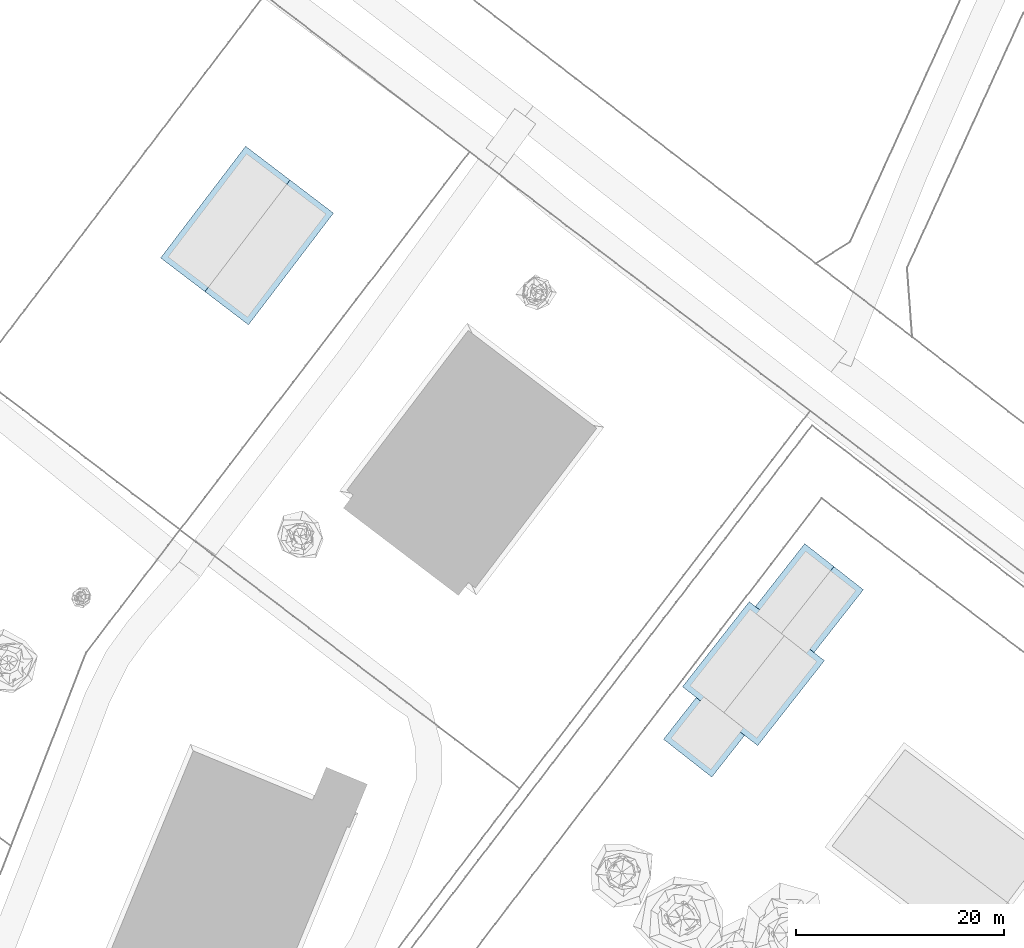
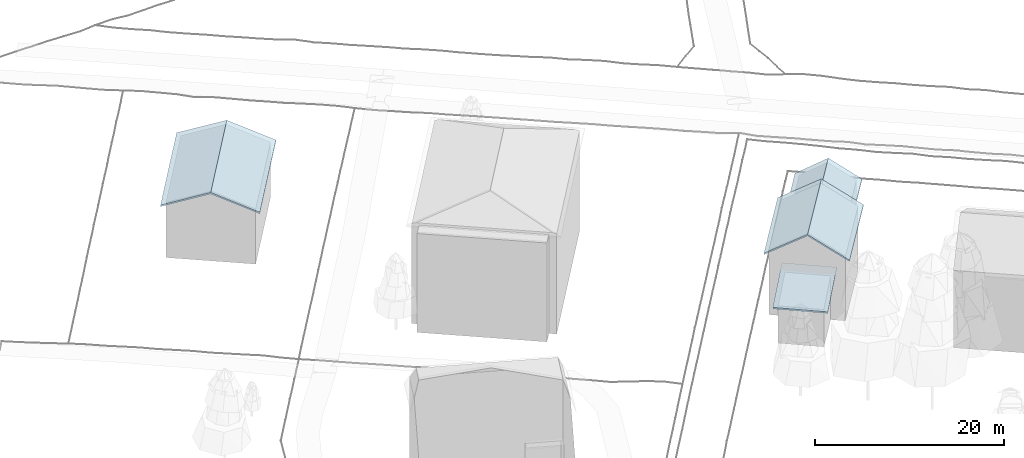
# Not in any storey, part 11 of 88: 2 roofs.
"""IFC4 building model written with IfcOpenShell, lengths in metres."""

from ifc_helpers import new_model, si_unit, origin_with_axes, place, context, subcontext, project, spatial, faceted_brep, element, save


model = new_model("IFC4")

# Units and contexts
model_context = context("Model", 3, precision=1e-05, world=origin_with_axes())
body_context = subcontext(model_context, "Body", "Model", "MODEL_VIEW")
ifc_project = project(units=[si_unit("LENGTHUNIT", "METRE"), si_unit("AREAUNIT", "SQUARE_METRE"), si_unit("VOLUMEUNIT", "CUBIC_METRE"), si_unit("PLANEANGLEUNIT", "RADIAN")], contexts=[model_context])

# Sites, building
site_1_placement = place(None, origin_with_axes())
site_1 = spatial("IfcSite", under=ifc_project, at=site_1_placement, Name="CH907857693633", CompositionType="ELEMENT")
site_2_placement = place(None, origin_with_axes())
site_2 = spatial("IfcSite", under=site_1, at=site_2_placement, Name="Buildings", CompositionType="ELEMENT")
building_1_placement = place(None, origin_with_axes())
building_1 = spatial("IfcBuilding", under=site_2, at=building_1_placement, Name="Building_76F2A9BA", CompositionType="ELEMENT")

# Roof
roof_1_placement = place(building_1_placement, origin_with_axes())
element("IfcRoof", 1, at=roof_1_placement, inside=building_1, Name="Building_76F2A9BA_Roof", PredefinedType="NOTDEFINED", context=body_context, shape_type="Brep", body=[
    faceted_brep([(67.4620000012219, 189.350999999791, 14.8850877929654), (72.6359999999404, 189.646999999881, 13.3071877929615), (70.5480000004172, 191.236999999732, 14.3591877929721), (79.8040000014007, 196.899000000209, 12.7832877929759), (74.6279999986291, 196.600999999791, 14.3590877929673), (76.7179999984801, 195.01099999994, 13.3071877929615), (71.5439999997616, 194.714999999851, 14.8850877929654), (69.4120000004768, 196.337000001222, 13.8331877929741), (68.4360000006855, 192.84299999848, 14.3591877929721), (68.4360000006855, 192.84299999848, 14.3591877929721), (66.3060000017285, 194.464999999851, 13.3071877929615), (63.1999999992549, 192.59299999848, 12.7832877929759), (66.3060000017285, 194.464999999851, 13.3071877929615), (68.4360000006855, 192.84299999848, 14.3591877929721), (69.4120000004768, 196.337000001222, 13.8331877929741), (75.6259999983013, 200.078999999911, 14.8850877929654), (70.3880000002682, 199.828999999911, 13.3071877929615), (72.5179999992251, 198.20699999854, 14.3591877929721), (71.640000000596, 186.168999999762, 12.7832877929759), (67.4620000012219, 189.350999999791, 14.6830877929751), (71.640000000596, 186.171000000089, 12.5832877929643), (67.4620000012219, 189.350999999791, 14.6830877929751), (71.640000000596, 186.168999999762, 12.7832877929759), (67.4620000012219, 189.350999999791, 14.8850877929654), (79.8040000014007, 196.899000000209, 12.7832877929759), (75.7219999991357, 191.535000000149, 12.7832877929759), (75.7219999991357, 191.535000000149, 12.6832877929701), (75.7219999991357, 191.535000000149, 12.6832877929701), (79.8040000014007, 196.899000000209, 12.5832877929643), (79.8040000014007, 196.899000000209, 12.7832877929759), (79.8040000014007, 196.899000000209, 12.5832877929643), (75.7219999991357, 191.535000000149, 12.6832877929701), (75.7219999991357, 191.535000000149, 12.5832877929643), (71.640000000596, 186.171000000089, 12.5832877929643), (75.7219999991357, 191.535000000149, 12.5832877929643), (75.7219999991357, 191.535000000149, 12.6832877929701), (71.640000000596, 186.168999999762, 12.7832877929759), (75.7219999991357, 191.535000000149, 12.6832877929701), (75.7219999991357, 191.535000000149, 12.7832877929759), (75.7219999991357, 191.535000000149, 12.6832877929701), (71.640000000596, 186.168999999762, 12.7832877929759), (71.640000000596, 186.171000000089, 12.5832877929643), (75.6259999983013, 200.078999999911, 14.6830877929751), (79.8040000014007, 196.899000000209, 12.7832877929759), (79.8040000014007, 196.899000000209, 12.5832877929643), (79.8040000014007, 196.899000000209, 12.7832877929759), (75.6259999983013, 200.078999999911, 14.6830877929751), (75.6259999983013, 200.078999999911, 14.8850877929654), (71.3640000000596, 203.322999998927, 12.5832877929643), (71.3640000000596, 203.322999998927, 12.7832877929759), (75.6259999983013, 200.078999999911, 14.6830877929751), (75.6259999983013, 200.078999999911, 14.8850877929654), (75.6259999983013, 200.078999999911, 14.6830877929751), (71.3640000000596, 203.322999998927, 12.7832877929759), (63.1999999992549, 192.59299999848, 12.7832877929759), (67.2800000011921, 197.958999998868, 12.6832877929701), (63.1999999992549, 192.59299999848, 12.5832877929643), (67.2800000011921, 197.958999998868, 12.5832877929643), (63.1999999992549, 192.59299999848, 12.5832877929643), (67.2800000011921, 197.958999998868, 12.6832877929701), (67.2800000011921, 197.958999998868, 12.6832877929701), (63.1999999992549, 192.59299999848, 12.7832877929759), (67.2800000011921, 197.958999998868, 12.7832877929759), (71.3640000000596, 203.322999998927, 12.5832877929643), (67.2800000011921, 197.958999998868, 12.6832877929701), (71.3640000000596, 203.322999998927, 12.7832877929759), (67.2800000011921, 197.958999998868, 12.7832877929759), (71.3640000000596, 203.322999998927, 12.7832877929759), (67.2800000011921, 197.958999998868, 12.6832877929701), (67.2800000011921, 197.958999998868, 12.6832877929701), (71.3640000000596, 203.322999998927, 12.5832877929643), (67.2800000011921, 197.958999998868, 12.5832877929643), (63.1999999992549, 192.59299999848, 12.7832877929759), (63.1999999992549, 192.59299999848, 12.5832877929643), (67.4620000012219, 189.350999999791, 14.6830877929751), (67.4620000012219, 189.350999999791, 14.6830877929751), (67.4620000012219, 189.350999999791, 14.8850877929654), (63.1999999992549, 192.59299999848, 12.7832877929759), (72.6359999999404, 189.646999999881, 13.1071877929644), (70.5480000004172, 191.236999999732, 14.159187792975), (73.6319999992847, 193.125, 13.6331877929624), (73.6319999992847, 193.125, 13.6331877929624), (75.7219999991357, 191.535000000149, 12.5832877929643), (72.6359999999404, 189.646999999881, 13.1071877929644), (74.6279999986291, 196.600999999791, 14.159187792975), (71.5439999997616, 194.714999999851, 14.6830877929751), (75.6259999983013, 200.078999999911, 14.6830877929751), (74.6279999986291, 196.600999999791, 14.159187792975), (76.7179999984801, 195.01099999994, 13.1071877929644), (73.6319999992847, 193.125, 13.6331877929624), (73.6319999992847, 193.125, 13.6331877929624), (71.5439999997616, 194.714999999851, 14.6830877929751), (74.6279999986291, 196.600999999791, 14.159187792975), (66.3060000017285, 194.464999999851, 13.1072877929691), (68.4360000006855, 192.84299999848, 14.159187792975), (63.1999999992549, 192.59299999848, 12.5832877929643), (68.4360000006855, 192.84299999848, 14.159187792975), (66.3060000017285, 194.464999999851, 13.1072877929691), (69.4120000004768, 196.337000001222, 13.6331877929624), (69.4120000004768, 196.337000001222, 13.6331877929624), (71.5439999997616, 194.714999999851, 14.6830877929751), (68.4360000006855, 192.84299999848, 14.159187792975), (70.3880000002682, 199.828999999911, 13.1072877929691), (72.5179999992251, 198.20699999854, 14.159187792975), (69.4120000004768, 196.337000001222, 13.6331877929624), (69.4120000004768, 196.337000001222, 13.6331877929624), (67.2800000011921, 197.958999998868, 12.5832877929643), (70.3880000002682, 199.828999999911, 13.1072877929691), (69.4120000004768, 196.337000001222, 13.8331877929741), (71.5439999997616, 194.714999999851, 14.8850877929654), (72.5179999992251, 198.20699999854, 14.3591877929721), (63.1999999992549, 192.59299999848, 12.7832877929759), (66.3060000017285, 194.464999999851, 13.3071877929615), (67.2800000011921, 197.958999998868, 12.7832877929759), (69.4120000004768, 196.337000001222, 13.8331877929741), (67.2800000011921, 197.958999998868, 12.7832877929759), (66.3060000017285, 194.464999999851, 13.3071877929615), (67.4620000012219, 189.350999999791, 14.6830877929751), (63.1999999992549, 192.59299999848, 12.5832877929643), (68.4360000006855, 192.84299999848, 14.159187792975), (71.3640000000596, 203.322999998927, 12.5832877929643), (75.6259999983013, 200.078999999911, 14.6830877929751), (70.3880000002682, 199.828999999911, 13.1072877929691), (73.6319999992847, 193.125, 13.8331877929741), (75.7219999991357, 191.535000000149, 12.7832877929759), (76.7179999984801, 195.01099999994, 13.3071877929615), (73.6319999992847, 193.125, 13.8331877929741), (71.5439999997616, 194.714999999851, 14.8850877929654), (70.5480000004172, 191.236999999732, 14.3591877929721), (71.640000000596, 186.171000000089, 12.5832877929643), (67.4620000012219, 189.350999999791, 14.6830877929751), (72.6359999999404, 189.646999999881, 13.1071877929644), (75.6259999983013, 200.078999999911, 14.6830877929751), (79.8040000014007, 196.899000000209, 12.5832877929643), (74.6279999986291, 196.600999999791, 14.159187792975), (71.640000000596, 186.168999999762, 12.7832877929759), (75.7219999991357, 191.535000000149, 12.7832877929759), (72.6359999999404, 189.646999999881, 13.3071877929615), (71.3640000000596, 203.322999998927, 12.7832877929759), (67.2800000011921, 197.958999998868, 12.7832877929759), (70.3880000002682, 199.828999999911, 13.3071877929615), (79.8040000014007, 196.899000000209, 12.5832877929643), (75.7219999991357, 191.535000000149, 12.5832877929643), (76.7179999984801, 195.01099999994, 13.1071877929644), (67.2800000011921, 197.958999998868, 12.5832877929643), (69.4120000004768, 196.337000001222, 13.6331877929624), (66.3060000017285, 194.464999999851, 13.1072877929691), (66.3060000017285, 194.464999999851, 13.1072877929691), (63.1999999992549, 192.59299999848, 12.5832877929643), (67.2800000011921, 197.958999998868, 12.5832877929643), (71.5439999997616, 194.714999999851, 14.8850877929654), (73.6319999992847, 193.125, 13.8331877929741), (74.6279999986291, 196.600999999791, 14.3590877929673), (76.7179999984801, 195.01099999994, 13.3071877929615), (74.6279999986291, 196.600999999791, 14.3590877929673), (73.6319999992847, 193.125, 13.8331877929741), (71.5439999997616, 194.714999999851, 14.8850877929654), (74.6279999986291, 196.600999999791, 14.3590877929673), (75.6259999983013, 200.078999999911, 14.8850877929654), (67.4620000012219, 189.350999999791, 14.8850877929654), (71.5439999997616, 194.714999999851, 14.8850877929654), (68.4360000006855, 192.84299999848, 14.3591877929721), (67.4620000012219, 189.350999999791, 14.6830877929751), (71.5439999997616, 194.714999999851, 14.6830877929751), (70.5480000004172, 191.236999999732, 14.159187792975), (75.6259999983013, 200.078999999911, 14.6830877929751), (71.5439999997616, 194.714999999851, 14.6830877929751), (72.5179999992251, 198.20699999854, 14.159187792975), (75.6259999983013, 200.078999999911, 14.8850877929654), (71.3640000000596, 203.322999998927, 12.7832877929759), (70.3880000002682, 199.828999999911, 13.3071877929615), (67.2800000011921, 197.958999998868, 12.7832877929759), (69.4120000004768, 196.337000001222, 13.8331877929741), (70.3880000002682, 199.828999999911, 13.3071877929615), (72.5179999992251, 198.20699999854, 14.3591877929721), (70.3880000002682, 199.828999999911, 13.3071877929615), (69.4120000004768, 196.337000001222, 13.8331877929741), (67.2800000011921, 197.958999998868, 12.5832877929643), (71.3640000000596, 203.322999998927, 12.5832877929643), (70.3880000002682, 199.828999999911, 13.1072877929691), (63.1999999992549, 192.59299999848, 12.7832877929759), (67.4620000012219, 189.350999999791, 14.8850877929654), (68.4360000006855, 192.84299999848, 14.3591877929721), (71.5439999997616, 194.714999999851, 14.6830877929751), (67.4620000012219, 189.350999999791, 14.6830877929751), (68.4360000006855, 192.84299999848, 14.159187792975), (71.5439999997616, 194.714999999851, 14.8850877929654), (75.6259999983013, 200.078999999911, 14.8850877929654), (72.5179999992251, 198.20699999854, 14.3591877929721), (71.5439999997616, 194.714999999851, 14.6830877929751), (69.4120000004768, 196.337000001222, 13.6331877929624), (72.5179999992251, 198.20699999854, 14.159187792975), (70.3880000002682, 199.828999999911, 13.1072877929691), (75.6259999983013, 200.078999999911, 14.6830877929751), (72.5179999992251, 198.20699999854, 14.159187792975), (67.4620000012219, 189.350999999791, 14.8850877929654), (71.640000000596, 186.168999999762, 12.7832877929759), (72.6359999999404, 189.646999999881, 13.3071877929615), (75.7219999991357, 191.535000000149, 12.7832877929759), (73.6319999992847, 193.125, 13.8331877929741), (72.6359999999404, 189.646999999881, 13.3071877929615), (70.5480000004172, 191.236999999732, 14.3591877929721), (72.6359999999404, 189.646999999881, 13.3071877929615), (73.6319999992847, 193.125, 13.8331877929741), (75.7219999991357, 191.535000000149, 12.5832877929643), (71.640000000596, 186.171000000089, 12.5832877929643), (72.6359999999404, 189.646999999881, 13.1071877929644), (79.8040000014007, 196.899000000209, 12.7832877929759), (75.6259999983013, 200.078999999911, 14.8850877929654), (74.6279999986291, 196.600999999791, 14.3590877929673), (72.6359999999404, 189.646999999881, 13.1071877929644), (67.4620000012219, 189.350999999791, 14.6830877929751), (70.5480000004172, 191.236999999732, 14.159187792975), (71.5439999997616, 194.714999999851, 14.6830877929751), (73.6319999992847, 193.125, 13.6331877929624), (70.5480000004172, 191.236999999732, 14.159187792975), (71.5439999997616, 194.714999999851, 14.8850877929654), (67.4620000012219, 189.350999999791, 14.8850877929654), (70.5480000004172, 191.236999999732, 14.3591877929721), (75.7219999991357, 191.535000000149, 12.7832877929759), (79.8040000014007, 196.899000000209, 12.7832877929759), (76.7179999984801, 195.01099999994, 13.3071877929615), (75.7219999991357, 191.535000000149, 12.5832877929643), (73.6319999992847, 193.125, 13.6331877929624), (76.7179999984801, 195.01099999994, 13.1071877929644), (74.6279999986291, 196.600999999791, 14.159187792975), (79.8040000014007, 196.899000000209, 12.5832877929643), (76.7179999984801, 195.01099999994, 13.1071877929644)], [[[0, 1, 2]], [[3, 4, 5]], [[6, 7, 8]], [[9, 10, 11]], [[12, 13, 14]], [[15, 16, 17]], [[18, 19, 20]], [[21, 22, 23]], [[24, 25, 26]], [[27, 28, 29]], [[30, 31, 32]], [[33, 34, 35]], [[36, 37, 38]], [[39, 40, 41]], [[42, 43, 44]], [[45, 46, 47]], [[48, 49, 50]], [[51, 52, 53]], [[54, 55, 56]], [[57, 58, 59]], [[60, 61, 62]], [[63, 64, 65]], [[66, 67, 68]], [[69, 70, 71]], [[72, 73, 74]], [[75, 76, 77]], [[78, 79, 80]], [[81, 82, 83]], [[84, 85, 86]], [[87, 88, 89]], [[90, 91, 92]], [[93, 94, 95]], [[96, 97, 98]], [[99, 100, 101]], [[102, 103, 104]], [[105, 106, 107]], [[108, 109, 110]], [[111, 112, 113]], [[114, 115, 116]], [[117, 118, 119]], [[120, 121, 122]], [[123, 124, 125]], [[126, 127, 128]], [[129, 130, 131]], [[132, 133, 134]], [[135, 136, 137]], [[138, 139, 140]], [[141, 142, 143]], [[144, 145, 146]], [[147, 148, 149]], [[150, 151, 152]], [[153, 154, 155]], [[156, 157, 158]], [[159, 160, 161]], [[162, 163, 164]], [[165, 166, 167]], [[168, 169, 170]], [[171, 172, 173]], [[174, 175, 176]], [[177, 178, 179]], [[180, 181, 182]], [[183, 184, 185]], [[186, 187, 188]], [[189, 190, 191]], [[192, 193, 194]], [[195, 196, 197]], [[198, 199, 200]], [[201, 202, 203]], [[204, 205, 206]], [[207, 208, 209]], [[210, 211, 212]], [[213, 214, 215]], [[216, 217, 218]], [[219, 220, 221]], [[222, 223, 224]], [[225, 226, 227]]]),
])

# Building
building_2_placement = place(None, origin_with_axes())
building_2 = spatial("IfcBuilding", under=site_2, at=building_2_placement, Name="Building_71E904FA", CompositionType="ELEMENT")

# Roof
roof_2_placement = place(building_2_placement, origin_with_axes())
element("IfcRoof", 2, at=roof_2_placement, inside=building_2, Name="Building_71E904FA_Roof", PredefinedType="NOTDEFINED", context=body_context, shape_type="Brep", body=[
    faceted_brep([(115.651999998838, 151.706000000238, 11.7582877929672), (111.480000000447, 146.388000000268, 10.6523877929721), (116.118000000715, 142.745999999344, 10.6523877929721), (115.651999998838, 151.706000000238, 11.7582877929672), (116.118000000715, 142.745999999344, 10.6523877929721), (120.291999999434, 148.063999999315, 11.7582877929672), (111.480000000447, 146.388000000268, 10.6523877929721), (116.118000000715, 142.747999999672, 10.4543877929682), (116.118000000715, 142.745999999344, 10.6523877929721), (116.118000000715, 142.747999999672, 10.4543877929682), (111.480000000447, 146.388000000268, 10.6523877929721), (111.480000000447, 146.388000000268, 10.4543877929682), (120.291999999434, 148.063999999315, 11.5602877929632), (116.118000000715, 142.745999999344, 10.6523877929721), (116.118000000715, 142.747999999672, 10.4543877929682), (116.118000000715, 142.745999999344, 10.6523877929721), (120.291999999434, 148.063999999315, 11.5602877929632), (120.291999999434, 148.063999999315, 11.7582877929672), (120.291999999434, 148.063999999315, 11.7582877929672), (120.291999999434, 148.063999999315, 11.5602877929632), (115.651999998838, 151.706000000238, 11.5602877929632), (115.651999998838, 151.706000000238, 11.5602877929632), (115.651999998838, 151.706000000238, 11.7582877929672), (120.291999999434, 148.063999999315, 11.7582877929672), (111.480000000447, 146.388000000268, 10.6523877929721), (115.651999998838, 151.706000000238, 11.5602877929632), (111.480000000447, 146.388000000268, 10.4543877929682), (115.651999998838, 151.706000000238, 11.5602877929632), (111.480000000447, 146.388000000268, 10.6523877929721), (115.651999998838, 151.706000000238, 11.7582877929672), (115.651999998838, 151.706000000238, 11.5602877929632), (116.118000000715, 142.747999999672, 10.4543877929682), (111.480000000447, 146.388000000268, 10.4543877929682), (115.651999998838, 151.706000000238, 11.5602877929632), (120.291999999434, 148.063999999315, 11.5602877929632), (116.118000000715, 142.747999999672, 10.4543877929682), (117.938000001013, 156.122000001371, 11.8682877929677), (122.890000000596, 159.546000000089, 13.0301877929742), (121.488000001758, 160.64600000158, 11.8682877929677), (120.739999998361, 153.921999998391, 14.1940877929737), (123.574000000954, 151.695999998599, 11.868187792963), (125.708000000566, 157.333999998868, 13.0301877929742), (130.675999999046, 160.743999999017, 11.868187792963), (127.842000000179, 162.969999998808, 14.1940877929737), (125.708000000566, 157.333999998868, 13.0301877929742), (124.291999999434, 158.445999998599, 14.1940877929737), (122.890000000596, 159.546000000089, 13.0301877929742), (120.739999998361, 153.921999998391, 14.1940877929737), (122.890000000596, 159.546000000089, 13.0301877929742), (124.291999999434, 158.445999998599, 14.1940877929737), (127.842000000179, 162.969999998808, 14.1940877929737), (117.938000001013, 156.122000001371, 11.8682877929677), (117.938000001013, 156.122000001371, 11.6682877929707), (120.739999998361, 153.921999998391, 13.9940877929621), (120.739999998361, 153.921999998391, 13.9940877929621), (120.739999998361, 153.921999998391, 14.1940877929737), (117.938000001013, 156.122000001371, 11.8682877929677), (123.574000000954, 151.695999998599, 11.868187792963), (120.739999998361, 153.921999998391, 13.9940877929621), (123.574000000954, 151.695999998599, 11.6682877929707), (120.739999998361, 153.921999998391, 13.9940877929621), (123.574000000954, 151.695999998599, 11.868187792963), (120.739999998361, 153.921999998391, 14.1940877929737), (130.675999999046, 160.743999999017, 11.868187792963), (127.125999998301, 156.221999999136, 11.868187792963), (127.125999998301, 156.221999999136, 11.7682877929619), (127.125999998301, 156.221999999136, 11.7682877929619), (130.675999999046, 160.743999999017, 11.6682877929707), (130.675999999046, 160.743999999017, 11.868187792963), (130.675999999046, 160.743999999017, 11.6682877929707), (127.125999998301, 156.221999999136, 11.7682877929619), (127.125999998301, 156.221999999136, 11.6682877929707), (123.574000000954, 151.695999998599, 11.6682877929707), (127.125999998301, 156.221999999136, 11.6682877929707), (127.125999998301, 156.221999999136, 11.7682877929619), (123.574000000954, 151.695999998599, 11.868187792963), (127.125999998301, 156.221999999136, 11.7682877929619), (127.125999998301, 156.221999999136, 11.868187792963), (127.125999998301, 156.221999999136, 11.7682877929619), (123.574000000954, 151.695999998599, 11.868187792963), (123.574000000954, 151.695999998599, 11.6682877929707), (127.842000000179, 162.969999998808, 13.9940877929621), (130.675999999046, 160.743999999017, 11.868187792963), (130.675999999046, 160.743999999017, 11.6682877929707), (130.675999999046, 160.743999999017, 11.868187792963), (127.842000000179, 162.969999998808, 13.9940877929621), (127.842000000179, 162.969999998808, 14.1940877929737), (125.037999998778, 165.170000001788, 11.6682877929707), (125.037999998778, 165.170000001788, 11.868187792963), (127.842000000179, 162.969999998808, 13.9940877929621), (127.842000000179, 162.969999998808, 14.1940877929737), (127.842000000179, 162.969999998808, 13.9940877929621), (125.037999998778, 165.170000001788, 11.868187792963), (125.037999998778, 165.170000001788, 11.6682877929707), (121.488000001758, 160.64600000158, 11.7682877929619), (125.037999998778, 165.170000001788, 11.868187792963), (121.488000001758, 160.64600000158, 11.7682877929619), (125.037999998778, 165.170000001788, 11.6682877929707), (121.488000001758, 160.64600000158, 11.6682877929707), (121.488000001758, 160.64600000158, 11.8682877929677), (125.037999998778, 165.170000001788, 11.868187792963), (121.488000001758, 160.64600000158, 11.7682877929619), (121.488000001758, 160.64600000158, 11.6682877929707), (117.938000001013, 156.122000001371, 11.6682877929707), (121.488000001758, 160.64600000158, 11.7682877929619), (117.938000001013, 156.122000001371, 11.8682877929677), (121.488000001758, 160.64600000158, 11.7682877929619), (117.938000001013, 156.122000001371, 11.6682877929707), (121.488000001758, 160.64600000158, 11.7682877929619), (117.938000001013, 156.122000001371, 11.8682877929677), (121.488000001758, 160.64600000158, 11.8682877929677), (120.739999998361, 153.921999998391, 13.9940877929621), (117.938000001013, 156.122000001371, 11.6682877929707), (122.890000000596, 159.546000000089, 12.8301877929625), (123.574000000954, 151.695999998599, 11.6682877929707), (125.708000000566, 157.333999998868, 12.8301877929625), (127.125999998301, 156.221999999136, 11.6682877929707), (124.291999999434, 158.445999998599, 13.9940877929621), (125.708000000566, 157.333999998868, 12.8301877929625), (120.739999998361, 153.921999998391, 13.9940877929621), (125.708000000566, 157.333999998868, 12.8301877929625), (124.291999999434, 158.445999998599, 13.9940877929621), (127.842000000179, 162.969999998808, 13.9940877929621), (125.037999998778, 165.170000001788, 11.6682877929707), (127.842000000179, 162.969999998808, 13.9940877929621), (122.890000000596, 159.546000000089, 12.8301877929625), (126.93200000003, 153.93200000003, 13.9720877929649), (121.956000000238, 151.239999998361, 15.4099877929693), (123.728000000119, 149.85000000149, 13.9720877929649), (118.346000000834, 154.072000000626, 15.4099877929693), (120.184000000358, 152.629999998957, 16.8478877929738), (123.390000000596, 156.71400000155, 16.8478877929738), (123.390000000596, 156.71400000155, 16.8478877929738), (119.71400000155, 159.598000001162, 13.9720877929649), (118.346000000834, 154.072000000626, 15.4099877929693), (116.980000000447, 148.546000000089, 16.8478877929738), (120.524000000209, 145.767999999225, 13.9720877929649), (121.956000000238, 151.239999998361, 15.4099877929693), (121.956000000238, 151.239999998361, 15.4099877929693), (120.184000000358, 152.629999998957, 16.8478877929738), (116.980000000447, 148.546000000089, 16.8478877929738), (118.346000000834, 154.072000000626, 15.4099877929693), (116.508000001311, 155.515999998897, 13.9720877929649), (113.304000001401, 151.43200000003, 13.9720877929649), (116.508000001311, 155.515999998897, 13.9720877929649), (118.346000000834, 154.072000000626, 15.4099877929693), (119.71400000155, 159.598000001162, 13.9720877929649), (123.390000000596, 156.71400000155, 16.6478877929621), (126.93200000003, 153.93200000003, 13.9720877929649), (126.93200000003, 153.93200000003, 13.7720877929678), (126.93200000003, 153.93200000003, 13.9720877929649), (123.390000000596, 156.71400000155, 16.6478877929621), (123.390000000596, 156.71400000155, 16.8478877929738), (119.71400000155, 159.598000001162, 13.7720877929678), (119.71400000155, 159.598000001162, 13.9720877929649), (123.390000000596, 156.71400000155, 16.6478877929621), (123.390000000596, 156.71400000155, 16.8478877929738), (123.390000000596, 156.71400000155, 16.6478877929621), (119.71400000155, 159.598000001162, 13.9720877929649), (113.304000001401, 151.43200000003, 13.9720877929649), (116.508000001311, 155.515999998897, 13.8720877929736), (113.304000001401, 151.43200000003, 13.7720877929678), (116.508000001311, 155.515999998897, 13.8720877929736), (113.304000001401, 151.43200000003, 13.9720877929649), (116.508000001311, 155.515999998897, 13.9720877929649), (116.508000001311, 155.515999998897, 13.8720877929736), (119.71400000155, 159.598000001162, 13.7720877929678), (116.508000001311, 155.515999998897, 13.7720877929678), (116.508000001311, 155.515999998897, 13.9720877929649), (119.71400000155, 159.598000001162, 13.9720877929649), (116.508000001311, 155.515999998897, 13.8720877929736), (119.71400000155, 159.598000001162, 13.7720877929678), (116.508000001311, 155.515999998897, 13.8720877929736), (119.71400000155, 159.598000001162, 13.9720877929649), (116.508000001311, 155.515999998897, 13.7720877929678), (113.304000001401, 151.43200000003, 13.7720877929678), (116.508000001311, 155.515999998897, 13.8720877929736), (113.304000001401, 151.43200000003, 13.9720877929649), (113.304000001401, 151.43200000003, 13.7720877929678), (116.980000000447, 148.546000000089, 16.6478877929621), (116.980000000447, 148.546000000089, 16.6478877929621), (116.980000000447, 148.546000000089, 16.8478877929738), (113.304000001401, 151.43200000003, 13.9720877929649), (120.524000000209, 145.767999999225, 13.9720877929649), (116.980000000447, 148.546000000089, 16.6478877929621), (120.524000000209, 145.767999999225, 13.7720877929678), (116.980000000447, 148.546000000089, 16.6478877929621), (120.524000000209, 145.767999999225, 13.9720877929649), (116.980000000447, 148.546000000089, 16.8478877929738), (120.524000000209, 145.767999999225, 13.7720877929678), (123.728000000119, 149.85000000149, 13.7720877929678), (123.728000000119, 149.85000000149, 13.8720877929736), (123.728000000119, 149.85000000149, 13.8720877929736), (120.524000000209, 145.767999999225, 13.9720877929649), (120.524000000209, 145.767999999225, 13.7720877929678), (120.524000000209, 145.767999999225, 13.9720877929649), (123.728000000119, 149.85000000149, 13.8720877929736), (123.728000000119, 149.85000000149, 13.9720877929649), (126.93200000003, 153.93200000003, 13.9720877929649), (123.728000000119, 149.85000000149, 13.9720877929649), (123.728000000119, 149.85000000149, 13.8720877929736), (126.93200000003, 153.93200000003, 13.7720877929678), (123.728000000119, 149.85000000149, 13.8720877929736), (123.728000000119, 149.85000000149, 13.7720877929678), (123.728000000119, 149.85000000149, 13.8720877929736), (126.93200000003, 153.93200000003, 13.7720877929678), (126.93200000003, 153.93200000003, 13.9720877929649), (123.390000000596, 156.71400000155, 16.6478877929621), (126.93200000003, 153.93200000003, 13.7720877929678), (121.956000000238, 151.239999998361, 15.2099877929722), (120.184000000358, 152.629999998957, 16.6478877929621), (118.346000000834, 154.072000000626, 15.2099877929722), (123.390000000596, 156.71400000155, 16.6478877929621), (119.71400000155, 159.598000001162, 13.7720877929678), (123.390000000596, 156.71400000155, 16.6478877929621), (118.346000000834, 154.072000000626, 15.2099877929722), (120.184000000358, 152.629999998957, 16.6478877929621), (121.956000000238, 151.239999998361, 15.2099877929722), (116.980000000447, 148.546000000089, 16.6478877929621), (120.524000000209, 145.767999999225, 13.7720877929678), (116.980000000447, 148.546000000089, 16.6478877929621), (121.956000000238, 151.239999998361, 15.2099877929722), (116.980000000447, 148.546000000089, 16.6478877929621), (113.304000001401, 151.43200000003, 13.7720877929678), (118.346000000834, 154.072000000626, 15.2099877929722), (130.675999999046, 160.743999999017, 11.868187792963), (125.708000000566, 157.333999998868, 13.0301877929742), (127.125999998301, 156.221999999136, 11.868187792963), (125.708000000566, 157.333999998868, 13.0301877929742), (124.291999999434, 158.445999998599, 14.1940877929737), (120.739999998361, 153.921999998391, 14.1940877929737), (124.291999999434, 158.445999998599, 14.1940877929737), (125.708000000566, 157.333999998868, 13.0301877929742), (127.842000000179, 162.969999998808, 14.1940877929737), (123.574000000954, 151.695999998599, 11.6682877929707), (120.739999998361, 153.921999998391, 13.9940877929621), (125.708000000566, 157.333999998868, 12.8301877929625), (127.842000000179, 162.969999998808, 13.9940877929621), (130.675999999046, 160.743999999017, 11.6682877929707), (125.708000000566, 157.333999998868, 12.8301877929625), (117.938000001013, 156.122000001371, 11.8682877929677), (120.739999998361, 153.921999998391, 14.1940877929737), (122.890000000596, 159.546000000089, 13.0301877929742), (127.842000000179, 162.969999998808, 14.1940877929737), (125.037999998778, 165.170000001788, 11.868187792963), (122.890000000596, 159.546000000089, 13.0301877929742), (125.037999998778, 165.170000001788, 11.6682877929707), (122.890000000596, 159.546000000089, 12.8301877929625), (121.488000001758, 160.64600000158, 11.6682877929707), (122.890000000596, 159.546000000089, 12.8301877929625), (124.291999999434, 158.445999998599, 13.9940877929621), (120.739999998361, 153.921999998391, 13.9940877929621), (124.291999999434, 158.445999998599, 13.9940877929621), (122.890000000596, 159.546000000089, 12.8301877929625), (127.842000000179, 162.969999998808, 13.9940877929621), (113.304000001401, 151.43200000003, 13.9720877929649), (116.980000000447, 148.546000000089, 16.8478877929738), (118.346000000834, 154.072000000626, 15.4099877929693), (116.980000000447, 148.546000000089, 16.6478877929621), (118.346000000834, 154.072000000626, 15.2099877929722), (120.184000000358, 152.629999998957, 16.6478877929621), (116.508000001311, 155.515999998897, 13.7720877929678), (118.346000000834, 154.072000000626, 15.2099877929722), (113.304000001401, 151.43200000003, 13.7720877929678), (118.346000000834, 154.072000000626, 15.2099877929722), (116.508000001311, 155.515999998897, 13.7720877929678), (119.71400000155, 159.598000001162, 13.7720877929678), (126.93200000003, 153.93200000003, 13.9720877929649), (123.390000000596, 156.71400000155, 16.8478877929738), (121.956000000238, 151.239999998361, 15.4099877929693), (120.524000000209, 145.767999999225, 13.7720877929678), (121.956000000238, 151.239999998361, 15.2099877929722), (123.728000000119, 149.85000000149, 13.7720877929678), (123.390000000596, 156.71400000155, 16.6478877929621), (121.956000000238, 151.239999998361, 15.2099877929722), (120.184000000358, 152.629999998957, 16.6478877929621), (125.708000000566, 157.333999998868, 13.0301877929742), (123.574000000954, 151.695999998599, 11.868187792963), (127.125999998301, 156.221999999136, 11.868187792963), (125.708000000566, 157.333999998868, 12.8301877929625), (130.675999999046, 160.743999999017, 11.6682877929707), (127.125999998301, 156.221999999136, 11.6682877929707), (122.890000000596, 159.546000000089, 13.0301877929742), (125.037999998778, 165.170000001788, 11.868187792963), (121.488000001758, 160.64600000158, 11.8682877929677), (122.890000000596, 159.546000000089, 12.8301877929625), (117.938000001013, 156.122000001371, 11.6682877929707), (121.488000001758, 160.64600000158, 11.6682877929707), (118.346000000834, 154.072000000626, 15.4099877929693), (116.980000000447, 148.546000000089, 16.8478877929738), (120.184000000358, 152.629999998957, 16.8478877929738), (121.956000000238, 151.239999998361, 15.4099877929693), (123.390000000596, 156.71400000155, 16.8478877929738), (120.184000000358, 152.629999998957, 16.8478877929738), (121.956000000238, 151.239999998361, 15.4099877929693), (120.524000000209, 145.767999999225, 13.9720877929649), (123.728000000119, 149.85000000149, 13.9720877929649), (121.956000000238, 151.239999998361, 15.2099877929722), (126.93200000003, 153.93200000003, 13.7720877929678), (123.728000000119, 149.85000000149, 13.7720877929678)], [[[0, 1, 2]], [[3, 4, 5]], [[6, 7, 8]], [[9, 10, 11]], [[12, 13, 14]], [[15, 16, 17]], [[18, 19, 20]], [[21, 22, 23]], [[24, 25, 26]], [[27, 28, 29]], [[30, 31, 32]], [[33, 34, 35]], [[36, 37, 38]], [[39, 40, 41]], [[42, 43, 44]], [[45, 46, 47]], [[48, 49, 50]], [[51, 52, 53]], [[54, 55, 56]], [[57, 58, 59]], [[60, 61, 62]], [[63, 64, 65]], [[66, 67, 68]], [[69, 70, 71]], [[72, 73, 74]], [[75, 76, 77]], [[78, 79, 80]], [[81, 82, 83]], [[84, 85, 86]], [[87, 88, 89]], [[90, 91, 92]], [[93, 94, 95]], [[96, 97, 98]], [[99, 100, 101]], [[102, 103, 104]], [[105, 106, 107]], [[108, 109, 110]], [[111, 112, 113]], [[114, 115, 116]], [[117, 118, 119]], [[120, 121, 122]], [[123, 124, 125]], [[126, 127, 128]], [[129, 130, 131]], [[132, 133, 134]], [[135, 136, 137]], [[138, 139, 140]], [[141, 142, 143]], [[144, 145, 146]], [[147, 148, 149]], [[150, 151, 152]], [[153, 154, 155]], [[156, 157, 158]], [[159, 160, 161]], [[162, 163, 164]], [[165, 166, 167]], [[168, 169, 170]], [[171, 172, 173]], [[174, 175, 176]], [[177, 178, 179]], [[180, 181, 182]], [[183, 184, 185]], [[186, 187, 188]], [[189, 190, 191]], [[192, 193, 194]], [[195, 196, 197]], [[198, 199, 200]], [[201, 202, 203]], [[204, 205, 206]], [[207, 208, 209]], [[210, 211, 212]], [[213, 214, 215]], [[216, 217, 218]], [[219, 220, 221]], [[222, 223, 224]], [[225, 226, 227]], [[228, 229, 230]], [[231, 232, 233]], [[234, 235, 236]], [[237, 238, 239]], [[240, 241, 242]], [[243, 244, 245]], [[246, 247, 248]], [[249, 250, 251]], [[252, 253, 254]], [[255, 256, 257]], [[258, 259, 260]], [[261, 262, 263]], [[264, 265, 266]], [[267, 268, 269]], [[270, 271, 272]], [[273, 274, 275]], [[276, 277, 278]], [[279, 280, 281]], [[282, 283, 284]], [[285, 286, 287]], [[288, 289, 290]], [[291, 292, 293]], [[294, 295, 296]], [[297, 298, 299]]]),
])

save(model, "model.ifc")
